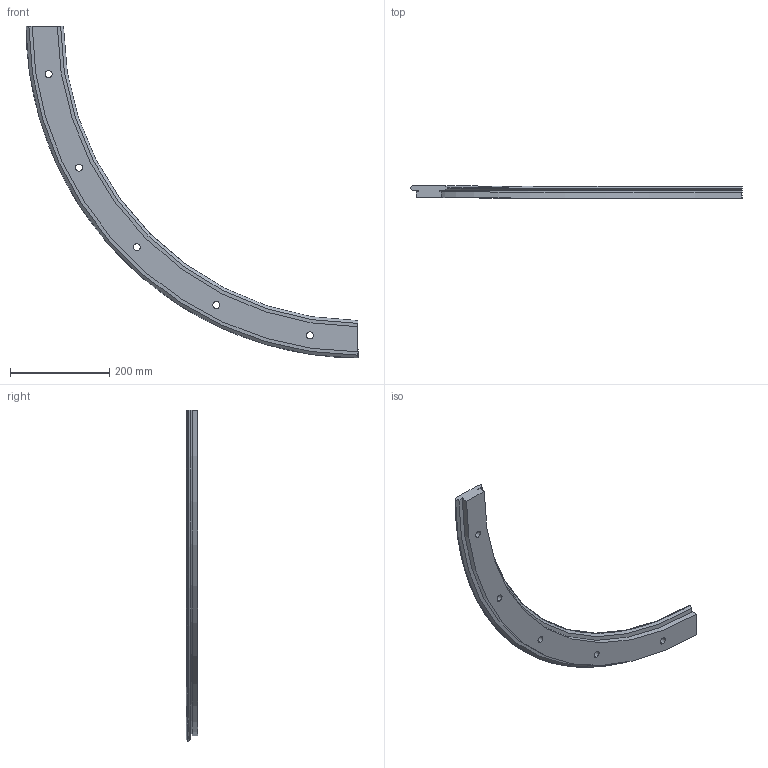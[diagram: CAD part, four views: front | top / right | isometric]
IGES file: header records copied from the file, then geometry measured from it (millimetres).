
Start section: 3D InterOp IGES (v. 2020 1.0.1), Spatial Corp. Copyright (c) 1999-2017.
Global section: file name: r76_1267_r90.igs; native system: Spatial Corp.; preprocessor: 3D InterOp ACIS/IGES; author: TraceParts; organization: TraceParts S.A.; date: 20220624.073406; units: millimetre
Bounding box: 669.3 x 24 x 669.3 mm (x, y, z)
Surface area: 208823.5 mm2 (no closed solid volume)
Topology: 0 solids, 0 shells, 45 faces, 228 edges, 228 vertices
Faces by surface type: revolution 32, extrusion 13
